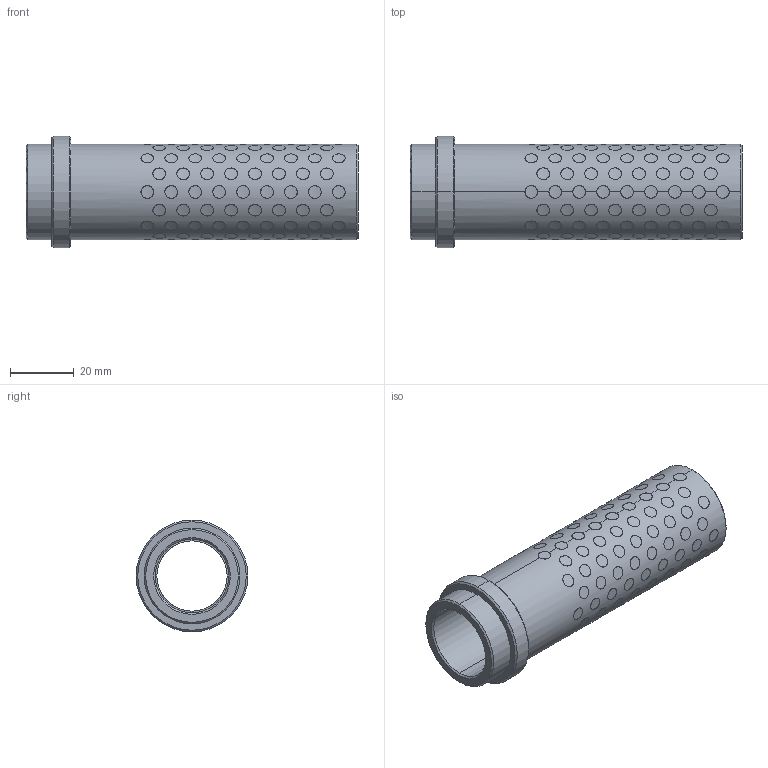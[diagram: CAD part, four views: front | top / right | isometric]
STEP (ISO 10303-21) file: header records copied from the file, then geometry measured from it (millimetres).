
FILE_DESCRIPTION((''),'2;1');
FILE_NAME('G31222096','2017-12-30T',('MANU'),(''),'PRO/ENGINEER BY PARAMETRIC TECHNOLOGY CORPORATION, 2012130','PRO/ENGINEER BY PARAMETRIC TECHNOLOGY CORPORATION, 2012130','');
FILE_SCHEMA(('CONFIG_CONTROL_DESIGN'));
Products named in the file (1): G31222096
Bounding box: 104 x 35 x 35 mm (x, y, z)
Volume: 34105.3 mm3; surface area: 31773.7 mm2
Topology: 137 solids, 137 shells, 843 faces, 1794 edges, 1192 vertices
Faces by surface type: cylinder 826, cone 12, plane 5
Entity records: 40830 total; most frequent: CARTESIAN_POINT 24461, ORIENTED_EDGE 3588, DIRECTION 2352, EDGE_CURVE 1794, VERTEX_POINT 1192, B_SPLINE_CURVE_WITH_KNOTS 1160, EDGE_LOOP 1084, AXIS2_PLACEMENT_3D 875
